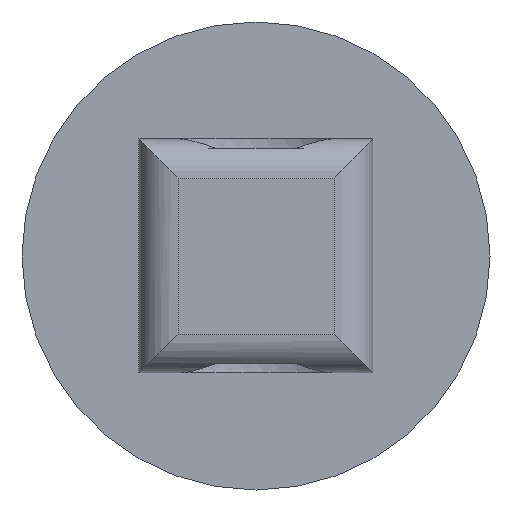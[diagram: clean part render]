
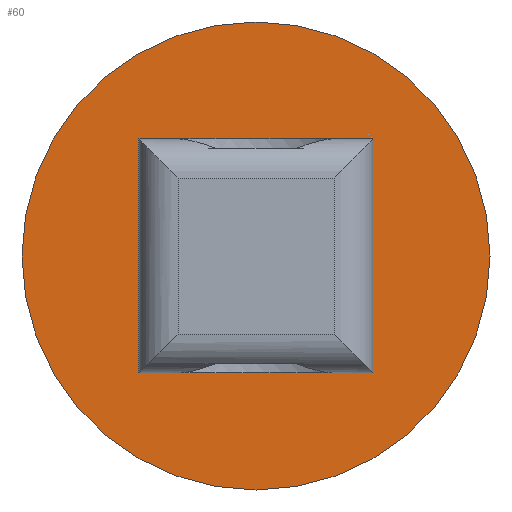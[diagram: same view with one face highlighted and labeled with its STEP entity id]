
A CAD part, front view. The second image highlights one B-rep face of the part: STEP entity #60.
In plain terms, the highlighted planar face has unit normal (0, -1, 0).
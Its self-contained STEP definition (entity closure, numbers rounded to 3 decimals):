
#60 = ADVANCED_FACE( '', ( #96, #97 ), #98, .T. );
#96 = FACE_OUTER_BOUND( '', #135, .T. );
#97 = FACE_BOUND( '', #136, .T. );
#98 = PLANE( '', #137 );
#135 = EDGE_LOOP( '', ( #241 ) );
#136 = EDGE_LOOP( '', ( #242, #243, #244, #245 ) );
#137 = AXIS2_PLACEMENT_3D( '', #246, #247, #248 );
#241 = ORIENTED_EDGE( '', *, *, #294, .T. );
#242 = ORIENTED_EDGE( '', *, *, #297, .F. );
#243 = ORIENTED_EDGE( '', *, *, #298, .F. );
#244 = ORIENTED_EDGE( '', *, *, #299, .T. );
#245 = ORIENTED_EDGE( '', *, *, #290, .T. );
#246 = CARTESIAN_POINT( '', ( -7.5, 20., 15. ) );
#247 = DIRECTION( '', ( 0., -1., 0. ) );
#248 = DIRECTION( '', ( 0., 0., -1. ) );
#290 = EDGE_CURVE( '', #345, #343, #346, .T. );
#294 = EDGE_CURVE( '', #351, #351, #352, .T. );
#297 = EDGE_CURVE( '', #354, #343, #356, .T. );
#298 = EDGE_CURVE( '', #357, #354, #358, .T. );
#299 = EDGE_CURVE( '', #357, #345, #359, .T. );
#343 = VERTEX_POINT( '', #441 );
#345 = VERTEX_POINT( '', #444 );
#346 = LINE( '', #445, #446 );
#351 = VERTEX_POINT( '', #453 );
#352 = CIRCLE( '', #454, 15. );
#354 = VERTEX_POINT( '', #457 );
#356 = LINE( '', #460, #461 );
#357 = VERTEX_POINT( '', #462 );
#358 = LINE( '', #463, #464 );
#359 = LINE( '', #465, #466 );
#441 = CARTESIAN_POINT( '', ( -7.5, 20., -7.5 ) );
#444 = CARTESIAN_POINT( '', ( 7.5, 20., -7.5 ) );
#445 = CARTESIAN_POINT( '', ( 27.425, 20., -7.5 ) );
#446 = VECTOR( '', #510, 1000. );
#453 = CARTESIAN_POINT( '', ( 0., 20., -15. ) );
#454 = AXIS2_PLACEMENT_3D( '', #516, #517, #518 );
#457 = CARTESIAN_POINT( '', ( -7.5, 20., 7.5 ) );
#460 = CARTESIAN_POINT( '', ( -7.5, 20., 15. ) );
#461 = VECTOR( '', #521, 1000. );
#462 = CARTESIAN_POINT( '', ( 7.5, 20., 7.5 ) );
#463 = CARTESIAN_POINT( '', ( 27.425, 20., 7.5 ) );
#464 = VECTOR( '', #522, 1000. );
#465 = CARTESIAN_POINT( '', ( 7.5, 20., 28.575 ) );
#466 = VECTOR( '', #523, 1000. );
#510 = DIRECTION( '', ( -1., 0., 0. ) );
#516 = CARTESIAN_POINT( '', ( 0., 20., 0. ) );
#517 = DIRECTION( '', ( 0., -1., 0. ) );
#518 = DIRECTION( '', ( 0., 0., -1. ) );
#521 = DIRECTION( '', ( 0., 0., -1. ) );
#522 = DIRECTION( '', ( -1., 0., 0. ) );
#523 = DIRECTION( '', ( 0., 0., -1. ) );
